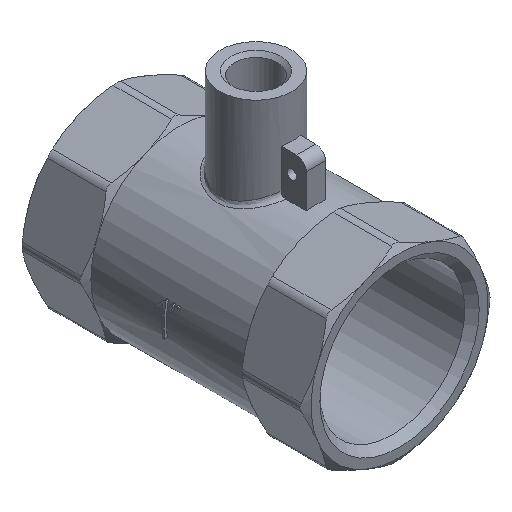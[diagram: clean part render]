
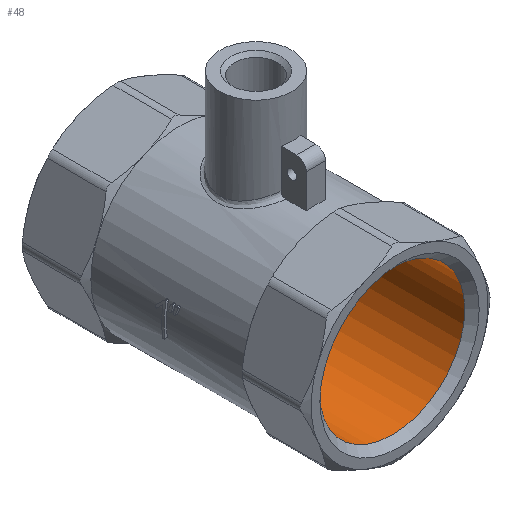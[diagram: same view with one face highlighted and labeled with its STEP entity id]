
A CAD part, isometric view. The second image highlights one B-rep face of the part: STEP entity #48.
In plain terms, the highlighted cylindrical face has radius 15.146 mm (diameter 30.292 mm), a full revolution.
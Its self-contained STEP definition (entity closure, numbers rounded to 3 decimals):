
#48=ADVANCED_FACE('',(#223,#225,#227),#229,.F.);
#223=FACE_OUTER_BOUND('',#224,.T.);
#224=EDGE_LOOP('',(#1523));
#225=FACE_OUTER_BOUND('',#226,.T.);
#226=EDGE_LOOP('',(#1524));
#227=FACE_BOUND('',#228,.T.);
#228=EDGE_LOOP('',(#1525));
#229=CYLINDRICAL_SURFACE('',#230,15.146);
#230=AXIS2_PLACEMENT_3D('',#231,#232,#233);
#231=CARTESIAN_POINT('',(0.,-31.,0.));
#232=DIRECTION('',(0.,1.,0.));
#233=DIRECTION('',(-1.,0.,0.));
#1523=ORIENTED_EDGE('',*,*,#2316,.F.);
#1524=ORIENTED_EDGE('',*,*,#2317,.F.);
#1525=ORIENTED_EDGE('',*,*,#2311,.T.);
#2311=EDGE_CURVE('',#2669,#2669,#2670,.T.);
#2316=EDGE_CURVE('',#2679,#2679,#2680,.F.);
#2317=EDGE_CURVE('',#2681,#2681,#2682,.T.);
#2669=VERTEX_POINT('',#3262);
#2670=B_SPLINE_CURVE_WITH_KNOTS('',3,
(#3263,#3264,#3265,#3266,#3267,#3268,#3269,#3270,#3271,#3272,#3273,#3274,#3275,#3276,
#3277,#3278,#3279,#3280,#3281,#3282,#3283,#3284,#3285,#3286,#3287,#3288,#3289,#3290,
#3291,#3292,#3293,#3294,#3295,#3296,#3297,#3298,#3299,#3300,#3301,#3302,#3303,#3304,
#3305,#3306,#3307,#3308,#3309,#3310,#3311,#3312,#3313,#3314,#3315,#3316,#3317,#3318,
#3319,#3320,#3321,#3322,#3323,#3324,#3325,#3326,#3327,#3328,#3329,#3330,#3331,#3332,
#3333,#3334),
.UNSPECIFIED.,.T.,.F.,
(4,1,1,1,1,1,1,1,1,1,1,1,1,1,1,1,1,1,1,1,1,1,1,1,1,1,1,1,1,1,1,1,1,1,1,1,1,1,1,1,
1,1,1,1,1,1,1,1,1,1,1,1,1,1,1,1,1,1,1,1,1,1,1,1,1,1,1,1,1,4),
(0.,0.016,0.029,0.043,0.06,0.078,
0.093,0.107,0.122,0.138,0.155,
0.172,0.188,0.204,0.22,0.236,
0.25,0.251,0.267,0.283,0.298,
0.312,0.326,0.34,0.355,0.372,
0.388,0.405,0.42,0.435,0.45,
0.464,0.477,0.486,0.495,0.5,
0.505,0.515,0.526,0.537,0.551,
0.568,0.586,0.601,0.615,0.631,
0.649,0.667,0.686,0.704,0.72,
0.734,0.747,0.75,0.76,0.774,
0.789,0.806,0.824,0.842,0.86,
0.876,0.893,0.913,0.932,0.95,
0.962,0.972,0.985,1.),
.UNSPECIFIED.);
#2679=VERTEX_POINT('',#3355);
#2680=CIRCLE('',#3356,15.146);
#2681=VERTEX_POINT('',#3360);
#2682=CIRCLE('',#3361,15.146);
#3262=CARTESIAN_POINT('',(0.,3.1,15.146));
#3263=CARTESIAN_POINT('',(0.,3.1,15.146));
#3264=CARTESIAN_POINT('',(-0.104,3.1,15.146));
#3265=CARTESIAN_POINT('',(-0.293,3.09,15.144));
#3266=CARTESIAN_POINT('',(-0.568,3.051,15.136));
#3267=CARTESIAN_POINT('',(-0.845,2.988,15.123));
#3268=CARTESIAN_POINT('',(-1.145,2.888,15.104));
#3269=CARTESIAN_POINT('',(-1.443,2.75,15.078));
#3270=CARTESIAN_POINT('',(-1.708,2.592,15.05));
#3271=CARTESIAN_POINT('',(-1.94,2.424,15.022));
#3272=CARTESIAN_POINT('',(-2.159,2.232,14.992));
#3273=CARTESIAN_POINT('',(-2.371,2.006,14.96));
#3274=CARTESIAN_POINT('',(-2.567,1.748,14.927));
#3275=CARTESIAN_POINT('',(-2.735,1.471,14.897));
#3276=CARTESIAN_POINT('',(-2.87,1.186,14.872));
#3277=CARTESIAN_POINT('',(-2.974,0.893,14.851));
#3278=CARTESIAN_POINT('',(-3.048,0.592,14.836));
#3279=CARTESIAN_POINT('',(-3.091,0.292,14.827));
#3280=CARTESIAN_POINT('',(-3.1,0.085,14.825));
#3281=CARTESIAN_POINT('',(-3.1,-0.12,14.825));
#3282=CARTESIAN_POINT('',(-3.087,-0.335,14.828));
#3283=CARTESIAN_POINT('',(-3.039,-0.634,14.838));
#3284=CARTESIAN_POINT('',(-2.966,-0.917,14.853));
#3285=CARTESIAN_POINT('',(-2.872,-1.178,14.871));
#3286=CARTESIAN_POINT('',(-2.757,-1.426,14.893));
#3287=CARTESIAN_POINT('',(-2.617,-1.671,14.919));
#3288=CARTESIAN_POINT('',(-2.445,-1.914,14.948));
#3289=CARTESIAN_POINT('',(-2.24,-2.151,14.98));
#3290=CARTESIAN_POINT('',(-2.006,-2.371,15.013));
#3291=CARTESIAN_POINT('',(-1.755,-2.562,15.045));
#3292=CARTESIAN_POINT('',(-1.497,-2.72,15.073));
#3293=CARTESIAN_POINT('',(-1.232,-2.85,15.097));
#3294=CARTESIAN_POINT('',(-0.965,-2.951,15.116));
#3295=CARTESIAN_POINT('',(-0.701,-3.023,15.13));
#3296=CARTESIAN_POINT('',(-0.473,-3.066,15.139));
#3297=CARTESIAN_POINT('',(-0.272,-3.09,15.144));
#3298=CARTESIAN_POINT('',(-0.122,-3.099,15.146));
#3299=CARTESIAN_POINT('',(0.005,-3.101,15.146));
#3300=CARTESIAN_POINT('',(0.135,-3.098,15.146));
#3301=CARTESIAN_POINT('',(0.303,-3.087,15.143));
#3302=CARTESIAN_POINT('',(0.505,-3.061,15.138));
#3303=CARTESIAN_POINT('',(0.731,-3.016,15.129));
#3304=CARTESIAN_POINT('',(0.995,-2.941,15.114));
#3305=CARTESIAN_POINT('',(1.292,-2.825,15.092));
#3306=CARTESIAN_POINT('',(1.581,-2.673,15.064));
#3307=CARTESIAN_POINT('',(1.838,-2.502,15.035));
#3308=CARTESIAN_POINT('',(2.066,-2.317,15.005));
#3309=CARTESIAN_POINT('',(2.286,-2.103,14.973));
#3310=CARTESIAN_POINT('',(2.5,-1.845,14.939));
#3311=CARTESIAN_POINT('',(2.696,-1.545,14.905));
#3312=CARTESIAN_POINT('',(2.856,-1.223,14.874));
#3313=CARTESIAN_POINT('',(2.972,-0.901,14.852));
#3314=CARTESIAN_POINT('',(3.047,-0.597,14.836));
#3315=CARTESIAN_POINT('',(3.087,-0.319,14.828));
#3316=CARTESIAN_POINT('',(3.099,-0.122,14.826));
#3317=CARTESIAN_POINT('',(3.101,0.048,14.825));
#3318=CARTESIAN_POINT('',(3.095,0.223,14.826));
#3319=CARTESIAN_POINT('',(3.068,0.474,14.832));
#3320=CARTESIAN_POINT('',(3.01,0.764,14.844));
#3321=CARTESIAN_POINT('',(2.915,1.074,14.863));
#3322=CARTESIAN_POINT('',(2.777,1.394,14.89));
#3323=CARTESIAN_POINT('',(2.601,1.699,14.921));
#3324=CARTESIAN_POINT('',(2.399,1.973,14.955));
#3325=CARTESIAN_POINT('',(2.177,2.214,14.989));
#3326=CARTESIAN_POINT('',(1.92,2.442,15.025));
#3327=CARTESIAN_POINT('',(1.625,2.649,15.06));
#3328=CARTESIAN_POINT('',(1.3,2.822,15.091));
#3329=CARTESIAN_POINT('',(1.005,2.937,15.113));
#3330=CARTESIAN_POINT('',(0.752,3.01,15.128));
#3331=CARTESIAN_POINT('',(0.527,3.058,15.137));
#3332=CARTESIAN_POINT('',(0.279,3.091,15.144));
#3333=CARTESIAN_POINT('',(0.099,3.1,15.146));
#3334=CARTESIAN_POINT('',(0.,3.1,15.146));
#3355=CARTESIAN_POINT('',(-15.146,28.5,0.));
#3356=AXIS2_PLACEMENT_3D('',#3357,#3358,#3359);
#3357=CARTESIAN_POINT('',(0.,28.5,0.));
#3358=DIRECTION('',(0.,1.,0.));
#3359=DIRECTION('',(-1.,0.,0.));
#3360=CARTESIAN_POINT('',(-15.146,-28.5,0.));
#3361=AXIS2_PLACEMENT_3D('',#3362,#3363,#3364);
#3362=CARTESIAN_POINT('',(0.,-28.5,0.));
#3363=DIRECTION('',(0.,1.,0.));
#3364=DIRECTION('',(-1.,0.,0.));
